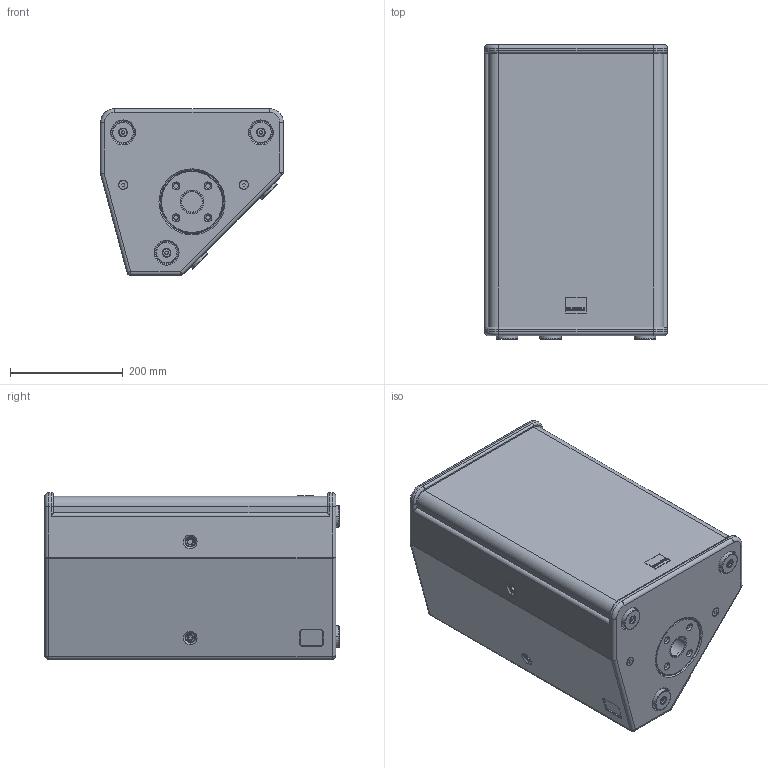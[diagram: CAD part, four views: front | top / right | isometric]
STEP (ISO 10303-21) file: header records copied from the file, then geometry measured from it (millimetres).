
FILE_DESCRIPTION (( 'STEP AP203' ), '1' );
FILE_NAME ('Seeburg_TSM10.STEP', '2012-10-17T11:30:48', ( 'Fabian' ), ( '' ), 'SwSTEP 2.0', 'SolidWorks 2009', '' );
FILE_SCHEMA (( 'CONFIG_CONTROL_DESIGN' ));
Length unit declared in the file: millimetre
Products named in the file (2): TSM10; Seeburg_TSM10
Assembly tree (1 placements, depth 2):
  Seeburg_TSM10
    TSM10
Bounding box: 324 x 521 x 295 mm (x, y, z)
Volume: 11501993.1 mm3; surface area: 1464042.6 mm2
Topology: 29 solids, 29 shells, 784 faces, 1859 edges, 1167 vertices
Faces by surface type: cylinder 316, plane 254, cone 103, torus 96, sphere 13, bspline 2
Entity records: 26434 total; most frequent: CARTESIAN_POINT 7763, DIRECTION 4094, ORIENTED_EDGE 3702, EDGE_CURVE 1851, AXIS2_PLACEMENT_3D 1603, VERTEX_POINT 1163, EDGE_LOOP 896, VECTOR 888
